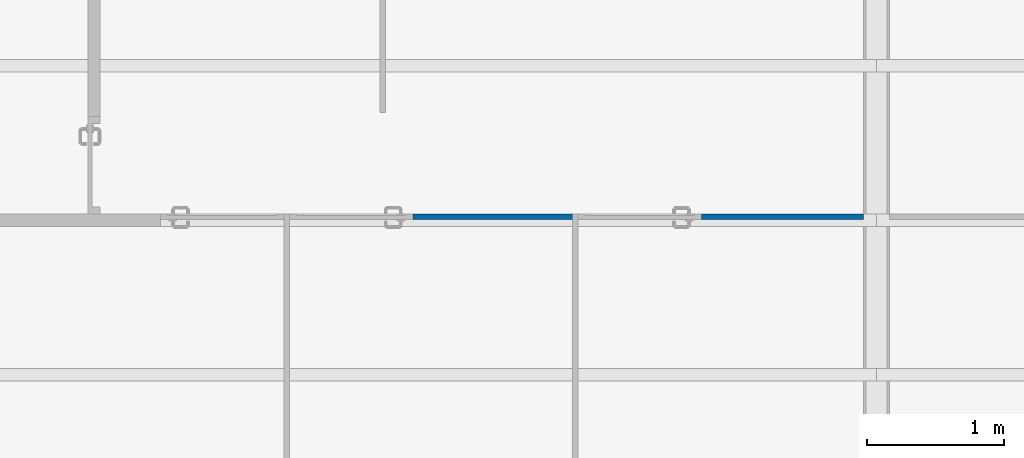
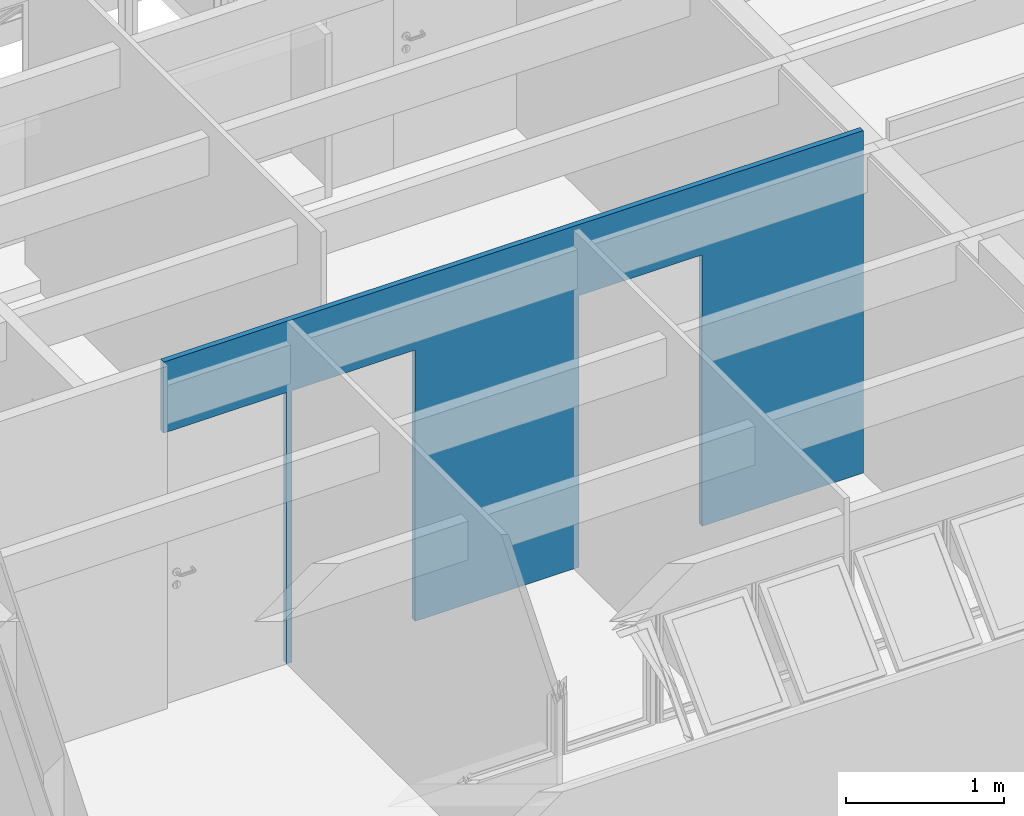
# One storey, part 19 of 40: 1 wall, 3 openings.
"""IFC4 building model written with IfcOpenShell, lengths in millimetres."""

import ifcopenshell
import ifcopenshell.guid

model = None  # the IFC model being written
_history = None  # IfcOwnerHistory: only IFC2X3 demands one
_inside = {}  # id of a spatial element -> (the spatial element, [elements in it])
_under = {}  # id of a project, library or spatial element -> (it, [spatial elements below it])
_declared = {}  # id of a project -> (the project, [libraries it declares])
_typed = {}  # id of a type object -> (the type object, [elements of that type])
_made_of = {}  # id of a material, layer set ... -> (it, [elements and type objects made of it])


def new_model(schema):
    """Start an empty IFC model of exactly this schema.

    Asked for "IFC4X3", IfcOpenShell would pick the latest addendum, in which some entities
    have other attributes; the version numbers below select the first issue.
    IFC2X3 requires an IfcOwnerHistory on every rooted entity: one is made here for all.
    """
    global model, _history
    if schema == "IFC4X3":
        model = ifcopenshell.file(schema_version=(4, 3, 0, 0))
    else:
        model = ifcopenshell.file(schema=schema)
    _inside.clear()
    _under.clear()
    _declared.clear()
    _typed.clear()
    _made_of.clear()
    _history = None
    if model.schema == "IFC2X3":
        org = make("IfcOrganization", Name="unknown")
        user = make(
            "IfcPersonAndOrganization",
            ThePerson=make("IfcPerson", FamilyName="unknown"),
            TheOrganization=org,
        )
        app = make(
            "IfcApplication",
            ApplicationDeveloper=org,
            Version="unknown",
            ApplicationFullName="unknown",
            ApplicationIdentifier="unknown",
        )
        _history = make(
            "IfcOwnerHistory",
            OwningUser=user,
            OwningApplication=app,
            ChangeAction="ADDED",
            CreationDate=0,
        )
    return model


def make(cls, **values):
    """One entity of the class cls with the attributes given. An attribute that is None is left unset."""
    return model.create_entity(
        cls, **{name: value for name, value in values.items() if value is not None}
    )


def entity(cls, *values):
    """Any entity or typed value of the class cls, its attributes in the order of the schema. None: left unset."""
    e = model.create_entity(cls)
    for i, value in enumerate(values):
        if value is not None:
            e[i] = value
    return e


def rooted(cls, **values):
    """An entity with a GlobalId (a new one), such as an element, a storey or a relation."""
    return make(cls, GlobalId=ifcopenshell.guid.new(), OwnerHistory=_history, **values)


def si_unit(unit_type, name, prefix=None):
    """IfcSIUnit, for example si_unit("LENGTHUNIT", "METRE", prefix="MILLI")."""
    return make("IfcSIUnit", UnitType=unit_type, Prefix=prefix, Name=name)


def converted_unit(unit_type, name, factor, base, dimensions=None, offset=None):
    """IfcConversionBasedUnit, such as the inch: factor (a typed value) times the base unit."""
    return make(
        "IfcConversionBasedUnit"
        if offset is None
        else "IfcConversionBasedUnitWithOffset",
        ConversionOffset=offset,
        Dimensions=None
        if dimensions is None
        else entity("IfcDimensionalExponents", *dimensions),
        UnitType=unit_type,
        Name=name,
        ConversionFactor=make(
            "IfcMeasureWithUnit", ValueComponent=factor, UnitComponent=base
        ),
    )


def derived_unit(unit_type, elements):
    """IfcDerivedUnit: a product of units, each with its exponent."""
    return make(
        "IfcDerivedUnit",
        Elements=[
            make("IfcDerivedUnitElement", Unit=unit, Exponent=power)
            for unit, power in elements
        ],
        UnitType=unit_type,
    )


def assignment(units):
    """IfcUnitAssignment: the units of a project."""
    return None if units is None else make("IfcUnitAssignment", Units=units)


def point(xyz):
    """IfcCartesianPoint."""
    return None if xyz is None else make("IfcCartesianPoint", Coordinates=xyz)


def direction(xyz):
    """IfcDirection."""
    return None if xyz is None else make("IfcDirection", DirectionRatios=xyz)


def frame(location, z_axis=None, x_axis=None):
    """IfcAxis2Placement3D, a coordinate frame: its origin and axes. An axis left out is left unset."""
    return make(
        "IfcAxis2Placement3D",
        Location=point(location),
        Axis=direction(z_axis),
        RefDirection=direction(x_axis),
    )


def frame_2d(location, x_axis=None):
    """IfcAxis2Placement2D, a coordinate frame in the plane: its origin and x axis."""
    return make(
        "IfcAxis2Placement2D", Location=point(location), RefDirection=direction(x_axis)
    )


def origin_with_axes():
    """The frame at (0, 0, 0) with the z axis (0, 0, 1) and the x axis (1, 0, 0) written out."""
    return frame((0.0, 0.0, 0.0), z_axis=(0.0, 0.0, 1.0), x_axis=(1.0, 0.0, 0.0))


def origin_2d_with_axis():
    """The frame at (0, 0) in the plane with the x axis (1, 0) written out."""
    return frame_2d((0.0, 0.0), x_axis=(1.0, 0.0))


def place(relative_to, where):
    """IfcLocalPlacement: puts the frame where relative to a parent placement (None: the world)."""
    return make(
        "IfcLocalPlacement", PlacementRelTo=relative_to, RelativePlacement=where
    )


def context(
    kind, dimensions, precision=None, world=None, true_north=None, identifier=None
):
    """IfcGeometricRepresentationContext, for example the 3D "Model" context."""
    return make(
        "IfcGeometricRepresentationContext",
        ContextIdentifier=identifier,
        ContextType=kind,
        CoordinateSpaceDimension=dimensions,
        Precision=precision,
        WorldCoordinateSystem=world,
        TrueNorth=true_north,
    )


def subcontext(parent, identifier, kind, view, scale=None):
    """IfcGeometricRepresentationSubContext, for example "Body" below "Model"."""
    return make(
        "IfcGeometricRepresentationSubContext",
        ContextIdentifier=identifier,
        ContextType=kind,
        ParentContext=parent,
        TargetScale=scale,
        TargetView=view,
    )


def project(units=None, contexts=None):
    """IfcProject with its units and contexts."""
    return rooted(
        "IfcProject",
        Name="project",
        RepresentationContexts=contexts,
        UnitsInContext=assignment(units),
    )


def spatial(cls, under=None, at=None, **own):
    """A site, building, storey or space (cls), placed at a placement, below another one or the project."""
    s = rooted(cls, ObjectPlacement=at, **own)
    if under is not None:
        _under.setdefault(under.id(), (under, []))[1].append(s)
    return s


def point_list(points):
    """IfcCartesianPointList2D or 3D."""
    cls = (
        "IfcCartesianPointList2D" if len(points[0]) == 2 else "IfcCartesianPointList3D"
    )
    return make(cls, CoordList=points)


def line(*indices):
    """IfcLineIndex: a straight run through numbered points of an indexed curve."""
    return model.create_entity("IfcLineIndex", indices)


def indexed_curve(points, segments=None, self_intersect=None):
    """IfcIndexedPolyCurve: lines and arcs through numbered points (the first is 1)."""
    return make(
        "IfcIndexedPolyCurve",
        Points=point_list(points),
        Segments=segments,
        SelfIntersect=self_intersect,
    )


def profile(cls, at=None, kind="AREA", **sizes):
    """A parametric profile (cls). Its sizes go by their IFC names, for example OverallWidth=200.0."""
    return make(cls, ProfileType=kind, Position=at, **sizes)


def rectangle(**sizes):
    """IfcRectangleProfileDef."""
    return profile("IfcRectangleProfileDef", **sizes)


def outline(outer, holes=None, kind="AREA"):
    """IfcArbitraryClosedProfileDef: a profile drawn as a closed curve; with holes, ...WithVoids."""
    if holes is None:
        return make("IfcArbitraryClosedProfileDef", ProfileType=kind, OuterCurve=outer)
    return make(
        "IfcArbitraryProfileDefWithVoids",
        ProfileType=kind,
        OuterCurve=outer,
        InnerCurves=holes,
    )


def extrude(swept, where, along, depth):
    """IfcExtrudedAreaSolid: the profile swept, set in the frame where, extruded along a direction by depth."""
    return make(
        "IfcExtrudedAreaSolid",
        SweptArea=swept,
        Position=where,
        ExtrudedDirection=direction(along),
        Depth=depth,
    )


def shape(context_of_items, identifier, shape_type, items):
    """IfcShapeRepresentation: the items that make up one representation, for example the "Body"."""
    return make(
        "IfcShapeRepresentation",
        ContextOfItems=context_of_items,
        RepresentationIdentifier=identifier,
        RepresentationType=shape_type,
        Items=items,
    )


def material(Name=None, Category=None):
    """IfcMaterial."""
    return make("IfcMaterial", Name=Name, Category=Category)


def layer(
    of_material, thickness, ventilated=None, Name=None, Category=None, Priority=None
):
    """IfcMaterialLayer: one layer of a wall or slab, of a material (None: an air gap)."""
    return make(
        "IfcMaterialLayer",
        Material=of_material,
        LayerThickness=thickness,
        IsVentilated=ventilated,
        Name=Name,
        Category=Category,
        Priority=Priority,
    )


def layer_set(layers, Name=None):
    """IfcMaterialLayerSet."""
    return make("IfcMaterialLayerSet", MaterialLayers=layers, LayerSetName=Name)


def layer_usage(for_layer_set, set_direction, sense, offset, extent=None):
    """IfcMaterialLayerSetUsage: how a layer set lies in its element."""
    return make(
        "IfcMaterialLayerSetUsage",
        ForLayerSet=for_layer_set,
        LayerSetDirection=set_direction,
        DirectionSense=sense,
        OffsetFromReferenceLine=offset,
        ReferenceExtent=extent,
    )


def made_of(thing, what):
    """Note that an element or type object is made of a material, layer set ...; save() writes the relation."""
    if what is not None:
        _made_of.setdefault(what.id(), (what, []))[1].append(thing)
    return thing


def type_object(cls, material=None, **own):
    """A type object (cls), such as IfcWallType, which elements share."""
    return made_of(rooted(cls, **own), material)


def element(
    cls,
    number,
    at=None,
    inside=None,
    cuts=None,
    type_object=None,
    material=None,
    context=None,
    identifier="Body",
    shape_type=None,
    held_by="IfcProductDefinitionShape",
    body=None,
    shapes=None,
    **own,
):
    """One element of the class cls, such as IfcWall. Its Tag is "e" and its number.

    at: its placement. inside: the storey or other place that contains it. cuts: it is an
    opening in that element (IfcRelVoidsElement). A single representation is given by context,
    identifier, shape_type and body (its items); several are given by shapes. held_by: the class
    of the entity that holds the representations. save() writes the other relations.
    """
    e = rooted(cls, Tag="e%d" % number, ObjectPlacement=at, **own)
    if body is not None:
        shapes = [shape(context, identifier, shape_type, body)]
    if shapes is not None:
        e.Representation = make(held_by, Representations=shapes)
    if inside is not None:
        _inside.setdefault(inside.id(), (inside, []))[1].append(e)
    if cuts is not None:
        rooted(
            "IfcRelVoidsElement", RelatingBuildingElement=cuts, RelatedOpeningElement=e
        )
    if type_object is not None:
        _typed.setdefault(type_object.id(), (type_object, []))[1].append(e)
    return made_of(e, material)


def aggregate(whole, parts):
    """IfcRelAggregates: a whole, such as a stair, and the parts it consists of."""
    return rooted("IfcRelAggregates", RelatingObject=whole, RelatedObjects=parts)


def save(model, path):
    """Write the relations noted so far, then the file.

    IfcRelAggregates (storeys below a building ...), IfcRelContainedInSpatialStructure (elements
    in a storey), IfcRelDefinesByType, IfcRelAssociatesMaterial and IfcRelDeclares: one each for
    every whole, place, type object, material and project.
    """
    for whole, parts in _under.values():
        aggregate(whole, parts)
    for where, things in _inside.values():
        rooted(
            "IfcRelContainedInSpatialStructure",
            RelatedElements=things,
            RelatingStructure=where,
        )
    for kind, things in _typed.values():
        rooted("IfcRelDefinesByType", RelatedObjects=things, RelatingType=kind)
    for what, things in _made_of.values():
        rooted("IfcRelAssociatesMaterial", RelatedObjects=things, RelatingMaterial=what)
    for by, libraries in _declared.values():
        rooted("IfcRelDeclares", RelatingContext=by, RelatedDefinitions=libraries)
    model.write(path)


model = new_model("IFC4")

# Units and contexts
model_context = context("Model", 3, precision=0.01, world=origin_with_axes(), true_north=direction((0.0, 1.0)))
body_context = subcontext(model_context, "Body", "Model", "MODEL_VIEW")
ifc_project = project(units=[si_unit("LENGTHUNIT", "METRE", prefix="MILLI"), si_unit("AREAUNIT", "SQUARE_METRE"), si_unit("VOLUMEUNIT", "CUBIC_METRE"), converted_unit("PLANEANGLEUNIT", "DEGREE", entity("IfcPlaneAngleMeasure", 0.0174532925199), si_unit("PLANEANGLEUNIT", "RADIAN"), dimensions=[0, 0, 0, 0, 0, 0, 0]), converted_unit("TIMEUNIT", "Year", entity("IfcTimeMeasure", 31556926.0), si_unit("TIMEUNIT", "SECOND"), dimensions=[0, 0, 1, 0, 0, 0, 0]), si_unit("MASSUNIT", "GRAM", prefix="KILO"), si_unit("THERMODYNAMICTEMPERATUREUNIT", "DEGREE_CELSIUS"), si_unit("LUMINOUSINTENSITYUNIT", "LUMEN"), si_unit("ENERGYUNIT", "JOULE", prefix="MEGA"), derived_unit("THERMALCONDUCTANCEUNIT", [(si_unit("POWERUNIT", "WATT"), 1), (si_unit("LENGTHUNIT", "METRE"), -1), (si_unit("THERMODYNAMICTEMPERATUREUNIT", "KELVIN"), -1)]), derived_unit("SPECIFICHEATCAPACITYUNIT", [(si_unit("ENERGYUNIT", "JOULE"), 1), (si_unit("MASSUNIT", "GRAM", prefix="KILO"), -1), (si_unit("THERMODYNAMICTEMPERATUREUNIT", "KELVIN"), -1)]), derived_unit("MASSDENSITYUNIT", [(si_unit("MASSUNIT", "GRAM", prefix="KILO"), 1), (si_unit("VOLUMEUNIT", "CUBIC_METRE"), -1)])], contexts=[model_context])

# Site, building, storey
site_placement = place(None, origin_with_axes())
site = spatial("IfcSite", under=ifc_project, at=site_placement, Name="Local", CompositionType="ELEMENT")
building_placement = place(site_placement, origin_with_axes())
building = spatial("IfcBuilding", under=site, at=building_placement, Name="Construção", CompositionType="ELEMENT")
storey_placement = place(building_placement, frame((0.0, 0.0, 5300.0), z_axis=(0.0, 0.0, 1.0), x_axis=(1.0, 0.0, 0.0)))
storey = spatial("IfcBuildingStorey", under=building, at=storey_placement, Name="Terceiro Pavimento", CompositionType="ELEMENT", Elevation=5300.0)

# Wall, openings
ifc_material = material(Name="GENÉRICO - VEDAÇÃO EXTERNA")
ifc_layer = layer(ifc_material, 40.0, ventilated="UNKNOWN", Name="GENÉRICO - VEDAÇÃO EXTERNA")
ifc_layer_set = layer_set([ifc_layer], Name="GENÉRICO - VEDAÇÃO EXTERNA 40")
ifc_layer_usage = layer_usage(ifc_layer_set, "AXIS2", "NEGATIVE", 0.0)
wall_type = type_object("IfcWallType", Name="GENÉRICO - VEDAÇÃO EXTERNA 40", PredefinedType="NOTDEFINED")
wall_placement = place(storey_placement, frame((2170.0, 3765.2195667, 0.0), z_axis=(0.0, 0.0, 1.0), x_axis=(0.99999999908, -4.28841203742e-05, 0.0)))
wall = element("IfcWall", 1, at=wall_placement, inside=storey, type_object=wall_type, material=ifc_layer_usage, Name="APTO9-PAREDE-006", PredefinedType="NOTDEFINED", context=body_context, shape_type="SweptSolid", body=[
    extrude(outline(indexed_curve([(0.000857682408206, -40.0), (5120.00000471, -40.0), (5120.00000471, 0.0), (0.0, 0.0)], segments=[line(1, 2, 3, 4, 1)])), origin_with_axes(), (0.0, 0.0, 1.0), 2650.0),
])
opening_1_placement = place(wall_placement, frame((1390.00000471, 0.0, 0.0), z_axis=(0.0, 0.0, 1.0), x_axis=(1.0, 0.0, 0.0)))
element("IfcOpeningElement", 2, at=opening_1_placement, cuts=wall, Name="APTO9-PORTA-002", context=body_context, shape_type="SweptSolid", body=[
    extrude(rectangle(XDim=900.0, YDim=2100.0, at=origin_2d_with_axis()), frame((0.0, -40.0, 1050.0), z_axis=(0.0, 1.0, 0.0), x_axis=(-1.0, 0.0, 0.0)), (0.0, 0.0, 1.0), 120.0),
])
opening_2_placement = place(wall_placement, frame((450.000004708, 0.0, 0.0), z_axis=(0.0, 0.0, 1.0), x_axis=(1.0, 0.0, 0.0)))
element("IfcOpeningElement", 3, at=opening_2_placement, cuts=wall, Name="APTO9-PORTA-001", context=body_context, shape_type="SweptSolid", body=[
    extrude(rectangle(XDim=900.0, YDim=2100.0, at=origin_2d_with_axis()), frame((0.0, -40.0, 1050.0), z_axis=(0.0, -1.0, 0.0), x_axis=(1.0, 0.0, 0.0)), (0.0, 0.0, -1.0), 120.0),
])
opening_3_placement = place(wall_placement, frame((3490.00000471, 0.0, 0.0), z_axis=(0.0, 0.0, 1.0), x_axis=(1.0, 0.0, 0.0)))
element("IfcOpeningElement", 4, at=opening_3_placement, cuts=wall, Name="APTO9-PORTA-000", context=body_context, shape_type="SweptSolid", body=[
    extrude(rectangle(XDim=900.0, YDim=2100.0, at=origin_2d_with_axis()), frame((0.0, -40.0, 1050.0), z_axis=(0.0, 1.0, 0.0), x_axis=(-1.0, 0.0, 0.0)), (0.0, 0.0, 1.0), 120.0),
])

save(model, "model.ifc")
